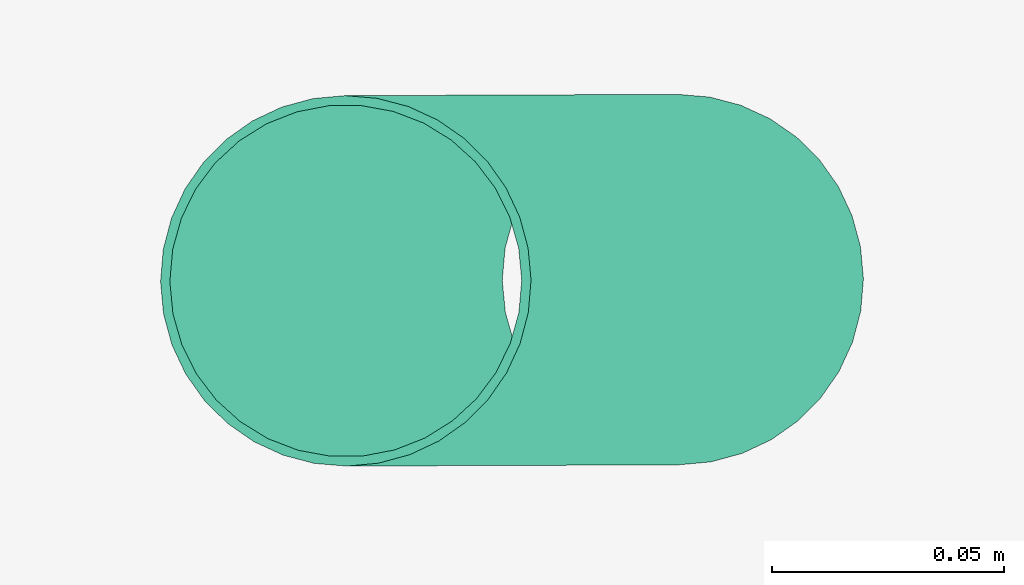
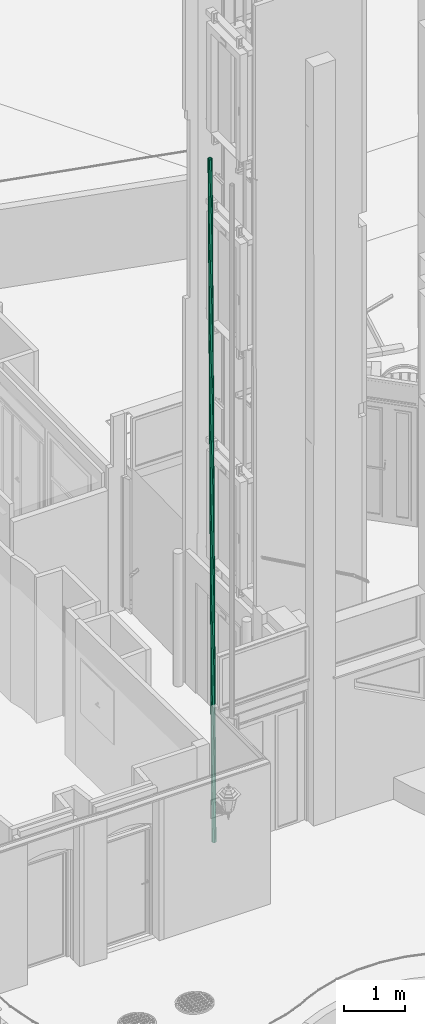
# One storey, part 122 of 133: 1 flow segment.
"""IFC2X3 building model written with IfcOpenShell, lengths in centimetres."""

from ifc_helpers import new_model, entity, si_unit, converted_unit, direction, frame, origin, origin_with_axes, place, context, subcontext, project, spatial, faceted_brep, material, type_object, element, save


model = new_model("IFC2X3")

# Units and contexts
model_context = context("Model", 3, precision=0.0001, world=origin(), true_north=direction((0.225632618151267, 0.974212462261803, 0.0)))
body_context = subcontext(model_context, "Body", "Model", "MODEL_VIEW")
ifc_project = project(units=[si_unit("LENGTHUNIT", "METRE", prefix="CENTI"), si_unit("AREAUNIT", "SQUARE_METRE", prefix="CENTI"), si_unit("VOLUMEUNIT", "CUBIC_METRE", prefix="CENTI"), converted_unit("PLANEANGLEUNIT", "DEGREE", entity("IfcRatioMeasure", 0.0174532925), si_unit("PLANEANGLEUNIT", "RADIAN"), dimensions=[0, 0, 0, 0, 0, 0, 0])], contexts=[model_context])

# Site, building, storey
site_placement = place(None, origin_with_axes())
site = spatial("IfcSite", under=ifc_project, at=site_placement, Name="Default Site", CompositionType="ELEMENT")
building_placement = place(site_placement, origin_with_axes())
building = spatial("IfcBuilding", under=site, at=building_placement, Name="Default Building", CompositionType="ELEMENT")
storey_placement = place(building_placement, frame((0.0, 0.0, -291.400371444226), z_axis=(0.0, 0.0, 1.0), x_axis=(1.0, 0.0, 0.0)))
storey = spatial("IfcBuildingStorey", under=building, at=storey_placement, Name="Rez-de-Jardin", CompositionType="ELEMENT", Elevation=-291.400371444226)

# Flow segment
ifc_material = material(Name="Aluminium mat")
pipe_segment_type = type_object("IfcPipeSegmentType", Name="Default Flow Segment Type", PredefinedType="GUTTER", material=ifc_material)
flow_segment_placement = place(storey_placement, frame((919.412638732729, -854.974369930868, 0.0), z_axis=(-0.005239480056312, -2.03080624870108e-05, 0.999986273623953), x_axis=(0.00387593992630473, -0.999992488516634, -1.46245644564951e-21)))
element("IfcFlowSegment", 1, at=flow_segment_placement, inside=storey, type_object=pipe_segment_type, material=ifc_material, Name="Descente 1533938", context=body_context, shape_type="Brep", body=[
    faceted_brep([(3.66027855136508e-05, -4.0000116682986, 1.15289723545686e-05), (-0.694570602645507, -4.06078192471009, -4.0693937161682e-06), (-0.694548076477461, -4.060780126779, 1370.00004243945), (-3.55029435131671e-05, -4.00001814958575, 1370.00001035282), (-0.694574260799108, -4.06074011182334, -4.06939371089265e-06), (-1.36810340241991, -4.24121170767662, 1.1824748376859e-05), (-1.36808703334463, -4.24120713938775, 1370.00003449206), (-0.694557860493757, -4.06073553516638, 1370.00004243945), (-1.36809614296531, -4.24123880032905, 1.18247483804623e-05), (-1.99998908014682, -4.53589530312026, 5.80571915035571e-06), (-1.99997936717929, -4.53589075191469, 1369.99995694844), (-1.36808628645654, -4.24123418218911, 1370.00003449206), (-2.00000302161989, -4.53586540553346, 5.80571914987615e-06), (-2.57119265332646, -4.93581667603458, 3.31561067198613e-06), (-2.57118942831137, -4.93581390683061, 1369.99995445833), (-1.99999979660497, -4.5358626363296, 1369.99995694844), (-2.57118717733, -4.93582449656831, 3.31561067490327e-06), (-3.06419635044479, -5.42883367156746, 1.17752636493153e-05), (-3.06419772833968, -5.4288349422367, 1369.99996241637), (-2.57118892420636, -4.93582613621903, 1369.99995445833), (-3.06414881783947, -5.4288812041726, 1.17752636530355e-05), (-3.46409245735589, -6.0000599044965, 2.17225931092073e-07), (-3.46405263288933, -6.00000283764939, 1369.99999854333), (-3.06414031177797, -5.42886886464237, 1369.99996241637), (-3.46414306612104, -6.00002446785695, 2.17225926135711e-07), (-3.75881022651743, -6.63194023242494, -2.84199899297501e-06), (-3.75878016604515, -6.63187538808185, 1369.99997164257), (-3.4641129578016, -5.99995952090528, 1369.99999854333), (-3.7588003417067, -6.63194484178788, -2.84199899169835e-06), (-3.93925645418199, -7.30541625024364, -2.79261223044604e-06), (-3.93926186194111, -7.30543646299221, 1369.99997219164), (-3.75878188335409, -6.6318759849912, 1369.99997164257), (-3.9392722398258, -7.30541202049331, -2.79261223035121e-06), (-4.00004416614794, -8.00003834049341, -1.10887095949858e-05), (-4.00003814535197, -7.99996954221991, 1369.99998723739), (-3.93927451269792, -7.30543801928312, 1369.99997219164), (-4.00004375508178, -8.00003837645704, -1.10887095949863e-05), (-3.93928020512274, -8.6945689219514, 3.92799703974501e-06), (-3.93927753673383, -8.69459915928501, 1370.00000275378), (-4.00004936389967, -7.99997400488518, 1369.99998723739), (-3.9392204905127, -8.69456369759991, 3.92799703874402e-06), (-3.75874674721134, -9.3681008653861, 4.31243778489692e-06), (-3.75874446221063, -9.36810933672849, 1370.00000313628), (-3.9392117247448, -8.69459635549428, 1370.00000275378), (-3.75872419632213, -9.36809482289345, 4.31243778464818e-06), (-3.46406509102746, -9.99999333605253, 1.22803553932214e-06), (-3.46404970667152, -10.0000262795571, 1369.99997621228), (-3.75872603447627, -9.36809083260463, 1370.00000313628), (-3.46410166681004, -10.0000103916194, 1.22803553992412e-06), (-3.06419316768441, -10.5711389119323, -1.05740296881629e-05), (-3.06420305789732, -10.5711244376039, 1370.00001209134), (-3.46407989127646, -10.0000411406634, 1369.99997621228), (-3.06414770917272, -10.5711070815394, -1.05740296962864e-05), (-2.5711388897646, -11.0641158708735, -2.07951537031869e-06), (-2.57111211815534, -11.0641423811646, 1370.0000205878), (-3.06416880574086, -10.571085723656, 1370.00001209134), (-2.57119346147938, -11.0641704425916, -2.07951535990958e-06), (-1.99999787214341, -11.4641259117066, -4.8543224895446e-06), (-2.00003182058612, -11.4641018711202, 1370.00001781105), (-2.57116324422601, -11.0641913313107, 1370.0000205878), (-1.99996236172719, -11.4640751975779, -4.85432249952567e-06), (-1.36805217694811, -11.7587397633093, -1.06912990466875e-05), (-1.36809937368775, -11.7587180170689, 1370.00003581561), (-2.0000095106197, -11.464053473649, 1370.00001781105), (-1.36805067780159, -11.7587365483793, -1.06912990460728e-05), (-0.694587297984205, -11.9391905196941, 5.07501938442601e-06), (-0.694556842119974, -11.939198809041, 1370.00002774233), (-1.36810932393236, -11.7587209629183, 1370.00003581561), (-0.694592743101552, -11.9392108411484, 5.07501938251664e-06), (2.41505594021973e-05, -11.9999819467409, -1.02928757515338e-05), (-4.31305650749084e-05, -11.9999762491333, 1369.99996468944), (-0.694565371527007, -11.9392134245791, 1370.00002774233), (2.40346921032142e-05, -11.9999832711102, -1.02928757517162e-05), (0.694631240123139, -11.9392130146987, 5.30549036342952e-06), (0.694567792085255, -11.939218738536, 1370.00002747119), (-4.80818829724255e-05, -11.9999897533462, 1369.99996468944), (0.694634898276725, -11.9392548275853, 5.30549035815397e-06), (1.36807515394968, -11.7588070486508, -1.05905884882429e-05), (1.36809155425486, -11.7588024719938, 1370.00003591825), (0.694586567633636, -11.9392675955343, 1370.00002747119), (1.36806141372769, -11.758755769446, -1.0590588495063e-05), (1.99995435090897, -11.4640992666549, -4.57155922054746e-06), (2.00000103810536, -11.464077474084, 1370.00001759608), (1.36807131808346, -11.7587511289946, 1370.00003591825), (1.99996829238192, -11.4641291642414, -4.57155922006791e-06), (2.57115792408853, -11.0641778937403, -2.08145074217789e-06), (2.57116132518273, -11.0641750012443, 1370.00002058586), (2.00001674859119, -11.4640947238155, 1370.00001759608), (2.57115244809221, -11.0641700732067, -2.08145074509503e-06), (3.06420911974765, -10.5711133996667, -1.05391670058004e-05), (3.06416006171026, -10.5711623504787, 1370.00001212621), (2.57115088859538, -11.0641715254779, 1370.00002058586), (3.06420945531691, -10.571113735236, -1.05391670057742e-05), (3.46412189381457, -9.99997959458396, 1.01693396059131e-06), (3.46411673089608, -9.99998677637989, 1369.99997600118), (3.06417320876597, -10.5711653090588, 1370.00001212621), (3.46410833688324, -9.99997010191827, 1.01693395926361e-06), (3.75877549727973, -9.36805433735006, 4.07615887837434e-06), (3.75876901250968, -9.36806786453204, 1370.00000290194), (3.46410180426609, -9.99998373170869, 1369.99997600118), (3.75876561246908, -9.36804972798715, 4.07615887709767e-06), (3.93922172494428, -8.69457831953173, 4.02677216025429e-06), (3.93921634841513, -8.69459841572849, 1370.00000285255), (3.75876023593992, -9.36806982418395, 1370.00000290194), (3.93923751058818, -8.69458254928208, 4.02677216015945e-06), (4.00000942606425, -7.99995635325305, -1.15186611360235e-05), (4.00000716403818, -7.99998222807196, 1369.99998730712), (3.9392352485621, -8.69460842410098, 1370.00000285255), (4.00000902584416, -7.99995631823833, -1.1518661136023e-05), (3.93924546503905, -7.30542564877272, -2.69383710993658e-06), (3.93923986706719, -7.30536140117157, 1369.99997179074), (4.00001169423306, -7.99998655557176, 1369.99998730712), (3.93918576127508, -7.3054308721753, -2.69383710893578e-06), (3.75871849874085, -6.63191789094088, -3.07634113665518e-06), (3.75872729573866, -6.63195066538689, 1369.99997190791), (3.93917074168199, -7.30537476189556, 1369.99997179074), (3.75878483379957, -6.63190011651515, -3.07634113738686e-06), (3.46410855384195, -5.9999647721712, 6.12434479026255e-09), (3.46412389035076, -5.99999761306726, 1369.9999988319), (3.75880021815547, -6.63193306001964, 1369.99997190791), (3.46406693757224, -5.99998417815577, 6.12434547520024e-09), (3.06418998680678, -5.42890071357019, 1.18101263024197e-05), (3.06413558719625, -5.42882267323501, 1369.99996245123), (3.46408865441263, -6.00001484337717, 1369.9999988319), (3.06420834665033, -5.42888785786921, 1.18101262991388e-05), (2.57115165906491, -4.93583120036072, 3.31367524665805e-06), (2.57117861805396, -4.93585789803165, 1369.99995445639), (3.06413993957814, -5.42881918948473, 1369.99996245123), (2.57115873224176, -4.93582412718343, 3.3136752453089e-06), (2.00002730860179, -4.53591358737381, 6.09041914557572e-06), (1.99994897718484, -4.53585846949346, 1369.99995673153), (2.57118912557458, -4.93584513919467, 1369.99995445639), (2.00002299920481, -4.53591974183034, 6.09041914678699e-06), (1.36811281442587, -4.24125517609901, 1.19273956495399e-05), (1.36802944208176, -4.24121656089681, 1370.00003409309), (1.99993977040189, -4.53588119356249, 1369.99995673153), (1.36811131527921, -4.24125839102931, 1.19273956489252e-05), (0.694558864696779, -4.06078055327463, -3.84085949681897e-06), (0.694589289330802, -4.06078883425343, 1370.00004266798), (1.368029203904, -4.24123651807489, 1370.00003409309), (0.694558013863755, -4.06078372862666, -3.84085949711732e-06), (3.5794593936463e-05, -4.00002090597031, 1.15289723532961e-05), (-3.14973765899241e-05, -4.00001520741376, 1370.00001035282), (0.694585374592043, -4.0607863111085, 1370.00004266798), (2.44047075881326e-05, -4.20000137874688, 1.03371782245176e-05), (0.69824963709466, -4.26470147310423, -8.31194593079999e-06), (0.698277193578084, -4.26470373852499, 1369.9999666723), (-4.26390614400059e-05, -4.19999487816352, 1370.00000916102), (0.698249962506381, -4.2646979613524, -8.31194593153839e-06), (1.37271821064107, -4.45660073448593, -4.0878246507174e-06), (1.37274876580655, -4.4566098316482, 1370.00001857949), (0.698280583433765, -4.26470707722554, 1369.9999666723), (1.3727125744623, -4.45662054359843, -4.08782465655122e-06), (2.0004526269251, -4.76919794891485, -1.14351609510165e-05), (2.00044628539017, -4.76919456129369, 1370.000034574), (1.37274403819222, -4.45663598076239, 1370.00001857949), (2.00045399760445, -4.76919519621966, -1.14351609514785e-05), (2.56004061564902, -5.1917753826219, 9.11239524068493e-06), (2.56007040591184, -5.19179773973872, 1369.99996025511), (2.00043792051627, -4.76918291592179, 1370.000034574), (2.56005775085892, -5.19175269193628, 9.11239523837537e-06), (3.03250868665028, -5.71000668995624, 6.55734124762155e-06), (3.03244342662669, -5.70993503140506, 1370.00000488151), (2.56008339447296, -5.19178074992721, 1369.99996025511), (3.03250556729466, -5.71000953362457, 6.55734124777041e-06), (3.40163587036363, -6.30617543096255, 6.83839607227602e-06), (3.40162898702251, -6.3061642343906, 1369.99998182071), (3.03245604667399, -5.70992947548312, 1370.00000488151), (3.40165385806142, -6.30616429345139, 6.83839607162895e-06), (3.65495930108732, -6.9600210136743, -3.67487108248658e-07), (3.65497216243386, -6.96005416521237, 1369.99997461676), (3.40165414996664, -6.30616499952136, 1369.99998182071), (3.65489684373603, -6.96004520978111, -3.6748710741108e-07), (3.78376179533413, -7.64941180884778, 1.13920557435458e-05), (3.78376451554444, -7.64942632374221, 1369.99996253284), (3.65490282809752, -6.96007718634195, 1369.99997461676), (3.78383301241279, -7.64939849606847, 1.13920557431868e-05), (3.78383301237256, -8.35065004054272, -9.87513164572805e-06), (3.78383301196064, -8.35058282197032, 1370.0000122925), (3.78383301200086, -7.64942664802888, 1369.99996253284), (3.78378532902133, -8.35065004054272, -9.87513164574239e-06), (3.65493171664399, -9.03995602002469, 1.64619358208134e-06), (3.65494478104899, -9.03988660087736, 1369.9999999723), (3.78379841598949, -8.35058050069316, 1370.0000122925), (3.65494156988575, -9.03995786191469, 1.64619358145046e-06), (3.40164077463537, -9.69380258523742, -5.85407233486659e-06), (3.40163445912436, -9.69381867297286, 1369.99999297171), (3.65496742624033, -9.03989090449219, 1369.9999999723), (3.40158917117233, -9.69378259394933, -5.85407233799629e-06), (3.03243058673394, -10.2899941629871, -5.07527868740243e-06), (3.03244134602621, -10.2899767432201, 1369.99996940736), (3.40158346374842, -9.69379176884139, 1369.99999297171), (3.03249226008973, -10.2900323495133, -5.07527868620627e-06), (2.56005509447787, -10.8082712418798, -7.83175258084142e-06), (2.56005252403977, -10.8082741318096, 1370.00001483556), (3.03249411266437, -10.2900303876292, 1369.99996940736), (2.5600326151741, -10.808250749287, -7.83175257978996e-06), (2.0004012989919, -11.2308647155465, -1.08700792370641e-05), (2.00044995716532, -11.2308280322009, 1370.00003513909), (2.56003511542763, -10.8082489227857, 1370.00001483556), (2.00039559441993, -11.2308571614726, -1.08700792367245e-05), (1.37270179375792, -11.5434115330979, 5.61249441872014e-06), (1.3727487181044, -11.5433877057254, 1369.99995625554), (2.00044271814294, -11.2308332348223, 1370.00003513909), (1.37271072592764, -11.5434294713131, 5.61249442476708e-06), (0.69829866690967, -11.7353162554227, 9.42602901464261e-06), (0.69822642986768, -11.735337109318, 1370.00000824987), (1.37275199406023, -11.5434180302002, 1369.99995625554), (0.698286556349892, -11.7352736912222, 9.42602902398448e-06), (3.46294824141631e-05, -11.7999762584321, -9.10108162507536e-06), (-3.76040380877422e-05, -11.799982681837, 1369.99996588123), (0.698214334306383, -11.7352801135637, 1370.00000824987), (3.62327700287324e-05, -11.7999935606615, -9.10108162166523e-06), (-0.698283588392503, -11.7352847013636, 9.54610581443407e-06), (-0.698256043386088, -11.7352869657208, 1370.00000837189), (-3.07995220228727e-05, -11.7999870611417, 1369.99996588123), (-0.698284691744, -11.7352966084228, 9.54610581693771e-06), (-1.37275293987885, -11.5433938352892, 5.32198458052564e-06), (-1.37272228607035, -11.5434029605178, 1369.9999564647), (-0.698254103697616, -11.7353057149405, 1370.00000837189), (-1.37274730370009, -11.5433740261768, 5.32198458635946e-06), (-2.00048730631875, -11.2307966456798, -1.11722097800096e-05), (-2.0004558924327, -11.2308120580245, 1370.00003533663), (-1.37271569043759, -11.5433895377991, 1369.9999564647), (-2.00048872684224, -11.2307994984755, -1.11722097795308e-05), (-2.56001449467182, -10.8082652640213, -7.87629858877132e-06), (-2.56004579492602, -10.8082414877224, 1370.00001478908), (-2.00045917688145, -11.2308216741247, 1370.00003533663), (-2.55999711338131, -10.8082422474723, -7.87629859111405e-06), (-3.03244804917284, -10.2899882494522, -5.32124464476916e-06), (-3.03242246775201, -10.2900162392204, 1369.999969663), (-2.56001512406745, -10.8082224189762, 1370.00001478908), (-3.03244492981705, -10.2899854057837, -5.32124464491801e-06), (-3.40157523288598, -9.69381950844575, -5.6022994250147e-06), (-3.40162475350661, -9.69373945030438, 1369.99999272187), (-3.03242521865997, -10.2900171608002, 1369.999969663), (-3.40159322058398, -9.69383064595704, -5.60229942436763e-06), (-3.65491123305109, -9.0399414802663, 1.60164699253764e-06), (-3.65493048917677, -9.03989172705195, 1369.99999992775), (-3.40162504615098, -9.69374844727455, 1369.99999272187), (-3.65493157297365, -9.03994935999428, 1.6016469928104e-06), (-3.78379323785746, -8.35060034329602, -1.01559590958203e-05), (-3.78378729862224, -8.35063207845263, 1370.00001251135), (-3.65494282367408, -9.03988913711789, 1369.99999992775), (-3.78377237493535, -8.35059644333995, -1.01559590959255e-05), (-3.78377237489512, -7.64934452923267, 1.1109291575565e-05), (-3.78377237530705, -7.64937305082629, 1369.99996225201), (-3.78377237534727, -8.35062459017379, 1370.00001251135), (-3.78382005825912, -7.64934452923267, 1.11092915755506e-05), (-3.65496644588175, -6.9600385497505, -4.12033696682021e-07), (-3.65497064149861, -6.96006146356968, 1369.99997457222), (-3.78382427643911, -7.64936756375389, 1369.99996225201), (-3.65497629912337, -6.96003670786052, -4.12033696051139e-07), (-3.40167550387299, -6.30619198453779, 7.08823222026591e-06), (-3.40168186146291, -6.30620818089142, 1369.99998207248), (-3.65498265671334, -6.96005290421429, 1369.99997457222), (-3.40162390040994, -6.30621197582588, 7.08823222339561e-06), (-3.0324390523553, -5.70995798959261, 6.31137528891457e-06), (-3.0324710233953, -5.71000958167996, 1370.00000513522), (-3.40162966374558, -6.30622124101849, 1369.99998207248), (-3.03243162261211, -5.70996258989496, 6.31137528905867e-06), (-2.56003755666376, -5.19177097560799, 9.06591246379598e-06), (-2.56004031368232, -5.19177407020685, 1369.99996020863), (-3.03247735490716, -5.71001282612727, 1370.00000513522), (-2.56006734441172, -5.19174382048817, 9.06591246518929e-06), (-2.00043608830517, -4.76912989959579, -1.17372914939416e-05), (-2.00043352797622, -4.76912802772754, 1370.00003477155), (-2.56006502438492, -5.19174213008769, 1369.99996020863), (-2.00043032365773, -4.76913753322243, -1.17372914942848e-05), (-1.37273647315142, -4.45658313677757, -4.37833453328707e-06), (-1.37272774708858, -4.45657832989, 1370.00001828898), (-2.00042154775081, -4.76913270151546, 1370.00003477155), (-1.37274545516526, -4.45656509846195, -4.37833453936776e-06), (-0.698245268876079, -4.26465323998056, -8.18993240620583e-06), (-0.698229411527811, -4.26464902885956, 1369.99996679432), (-1.37272953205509, -4.45656086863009, 1370.00001828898), (-0.698225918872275, -4.26472124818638, -8.18993242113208e-06), (2.6007995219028e-05, -4.20001868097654, 1.03371782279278e-05), (-4.62140483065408e-05, -4.200025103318, 1370.00000916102), (-0.698203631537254, -4.26471891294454, 1369.99996679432), (-3.36288634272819e-05, -4.00003957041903, 1370.00001035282), (-0.694549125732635, -4.06076813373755, 1370.00001035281), (-1.36807100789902, -4.24126694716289, 1370.00001035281), (-1.99997788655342, -4.53589392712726, 1370.0000103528), (-2.57116204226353, -4.93585301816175, 1370.00001035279), (-3.06421867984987, -5.42881399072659, 1370.00001035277), (-3.4641175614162, -5.99995737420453, 1370.00001035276), (-3.75877483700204, -6.63187787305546, 1370.00001035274), (-3.9392471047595, -7.30544041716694, 1370.00001035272), (-4.00001825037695, -7.99997128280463, 1370.0000103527), (-3.9391953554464, -8.69459196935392, 1370.00001035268), (-3.75879442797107, -9.36812272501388, 1370.00001035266), (-3.46407653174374, -10.0000387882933, 1370.00001035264), (-3.06421794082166, -10.5711348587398, 1370.00001035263), (-2.57116832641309, -11.0641985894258, 1370.00001035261), (-2.00003259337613, -11.4641029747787, 1370.0000103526), (-1.36812090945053, -11.7587642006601, 1370.0000103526), (-0.694567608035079, -11.9392389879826, 1370.00001035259), (-4.61969568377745e-05, -12.0000112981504, 1370.00001035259), (0.694565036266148, -11.9391872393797, 1370.00001035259), (1.36808654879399, -11.7587837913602, 1370.0000103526), (1.99999379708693, -11.4640619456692, 1370.00001035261), (2.5711775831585, -11.0641982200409, 1370.00001035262), (3.06413922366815, -10.5711415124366, 1370.00001035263), (3.46413347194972, -9.99999849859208, 1370.00001035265), (3.75879074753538, -9.36807799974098, 1370.00001035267), (3.93926264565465, -8.69461082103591, 1370.00001035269), (4.00003416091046, -7.99998458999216, 1370.00001035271), (3.93921126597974, -7.30536390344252, 1370.00001035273), (3.75880996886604, -6.63192851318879, 1370.00001035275), (3.46409207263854, -6.0000124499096, 1370.00001035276), (3.06413848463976, -5.42882064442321, 1370.00001035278), (2.57118386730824, -4.93585264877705, 1370.00001035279), (1.99995313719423, -4.53585252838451, 1370.0000103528), (1.36804145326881, -4.2411908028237, 1370.00001035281), (0.69458314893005, -4.06081175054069, 1370.00001035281), (-4.58269413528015e-05, -4.20002928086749, 1370.00001035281), (0.698275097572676, -4.26472635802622, 1370.00001035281), (1.37273770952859, -4.45664869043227, 1370.0000103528), (2.00047950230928, -4.76912785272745, 1370.0000103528), (2.56008288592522, -5.19178121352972, 1370.00001035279), (3.03243570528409, -5.70994207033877, 1370.00001035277), (3.40158362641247, -6.30619232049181, 1370.00001035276), (3.65492197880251, -6.96007360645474, 1370.00001035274), (3.78376278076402, -7.64942664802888, 1370.00001035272), (3.78381083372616, -8.35058282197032, 1370.0000103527), (3.65496707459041, -9.03989076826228, 1370.00001035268), (3.40161430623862, -9.69381086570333, 1370.00001035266), (3.03242239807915, -10.2899650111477, 1370.00001035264), (2.56005775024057, -10.8082788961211, 1370.00001035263), (2.00042109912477, -11.2307898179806, 1370.00001035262), (1.3727362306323, -11.5433626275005, 1370.00001035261), (0.698216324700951, -11.7353015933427, 1370.0000103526), (-3.39988789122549e-05, -11.800021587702, 1370.0000103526), (-0.698259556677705, -11.7353248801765, 1370.0000103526), (-1.37272216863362, -11.5434025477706, 1370.0000103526), (-2.00046359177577, -11.2308275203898, 1370.00001035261), (-2.56006734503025, -10.8082700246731, 1370.00001035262), (-3.03241979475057, -10.2900138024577, 1370.00001035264), (-3.40166308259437, -9.69376318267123, 1370.00001035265), (-3.65490606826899, -9.03988226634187, 1370.00001035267), (-3.78374723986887, -8.35062459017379, 1370.00001035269), (-3.78379492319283, -7.64937305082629, 1370.00001035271), (-3.65495116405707, -6.96006510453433, 1370.00001035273), (-3.40159876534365, -6.30624037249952, 1370.00001035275), (-3.03250185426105, -5.70999049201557, 1370.00001035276), (-2.56004220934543, -5.19177234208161, 1370.00001035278), (-2.00040518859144, -4.76916555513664, 1370.00001035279), (-1.37272032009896, -4.45659324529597, 1370.0000103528), (-0.69820078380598, -4.26474964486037, 1370.00001035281), (1.36811131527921, -4.24125839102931, -3.8408637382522e-06), (2.00002299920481, -4.53591974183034, -3.84087123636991e-06), (2.57115873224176, -4.93582412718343, -3.84088176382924e-06), (3.06420834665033, -5.42888785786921, -3.84089500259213e-06), (3.46406693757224, -5.99998417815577, -3.84091054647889e-06), (3.75878483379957, -6.63190011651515, -3.840927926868e-06), (3.93918576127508, -7.3054308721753, -3.84094661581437e-06), (4.00000902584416, -7.99995631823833, -3.84096604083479e-06), (3.93923751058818, -8.69458254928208, -3.84098561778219e-06), (3.75876561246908, -9.36804972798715, -3.84100474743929e-06), (3.46410833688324, -9.99997010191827, -3.84102285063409e-06), (3.06420945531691, -10.571113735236, -3.84103937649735e-06), (2.57115244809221, -11.0641700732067, -3.84105382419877e-06), (1.99996829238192, -11.4641291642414, -3.841065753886e-06), (1.36806141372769, -11.758755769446, -3.84107480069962e-06), (0.694634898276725, -11.9392548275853, -3.8410806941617e-06), (2.40346921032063e-05, -11.9999832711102, -3.84108325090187e-06), (-0.694592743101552, -11.9392108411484, -3.84108239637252e-06), (-1.36805067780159, -11.7587365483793, -3.84107815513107e-06), (-1.99996236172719, -11.4640751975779, -3.84107065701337e-06), (-2.57119346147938, -11.0641704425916, -3.8410601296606e-06), (-3.06414770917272, -10.5711070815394, -3.84104689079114e-06), (-3.46410166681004, -10.0000103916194, -3.84103134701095e-06), (-3.75872419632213, -9.36809482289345, -3.84101396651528e-06), (-3.9392204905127, -8.69456369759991, -3.84099527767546e-06), (-4.00004375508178, -8.00003837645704, -3.84097585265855e-06), (-3.9392722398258, -7.30541202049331, -3.84095627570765e-06), (-3.7588003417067, -6.63194484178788, -3.84093714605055e-06), (-3.46414306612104, -6.00002446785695, -3.84091904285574e-06), (-3.06414881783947, -5.4288812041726, -3.84090251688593e-06), (-2.57118717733, -4.93582449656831, -3.84088806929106e-06), (-2.00000302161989, -4.53586540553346, -3.84087613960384e-06), (-1.36809614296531, -4.24123880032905, -3.84086709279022e-06), (-0.694574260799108, -4.06074011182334, -3.84086119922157e-06), (3.66027855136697e-05, -4.0000116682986, -3.8408586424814e-06), (-0.698225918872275, -4.26472124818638, -3.84086693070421e-06), (-1.37274545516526, -4.45656509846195, -3.84087314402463e-06), (-2.00043032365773, -4.76913753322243, -3.84088268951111e-06), (-2.56006734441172, -5.19174382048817, -3.84089524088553e-06), (-3.03243162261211, -5.70996258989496, -3.84091036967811e-06), (-3.40162390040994, -6.30621197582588, -3.84092756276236e-06), (-3.65497629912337, -6.96003670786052, -3.84094623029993e-06), (-3.78382005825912, -7.64934452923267, -3.84096574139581e-06), (-3.78377237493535, -8.35059644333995, -3.84098542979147e-06), (-3.65493157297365, -9.03994935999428, -3.84100462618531e-06), (-3.40159322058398, -9.69383064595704, -3.84102267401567e-06), (-3.03244492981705, -10.2899854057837, -3.84103895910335e-06), (-2.55999711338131, -10.8082422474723, -3.84105293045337e-06), (-2.00048872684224, -11.2307994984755, -3.8410641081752e-06), (-1.37274730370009, -11.5433740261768, -3.84107211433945e-06), (-0.698284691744, -11.7352966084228, -3.84107667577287e-06), (3.62327700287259e-05, -11.7999935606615, -3.84107763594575e-06), (0.698286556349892, -11.7352736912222, -3.84107496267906e-06), (1.37271072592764, -11.5434294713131, -3.84106874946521e-06), (2.00039559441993, -11.2308571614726, -3.84105920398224e-06), (2.5600326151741, -10.808250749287, -3.84104665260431e-06), (3.03249226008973, -10.2900323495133, -3.84103152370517e-06), (3.40158917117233, -9.69378259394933, -3.84101433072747e-06), (3.65494156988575, -9.03995786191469, -3.8409956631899e-06), (3.78378532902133, -8.35065004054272, -3.84097615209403e-06), (3.78383301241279, -7.64939849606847, -3.84095646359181e-06), (3.65489684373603, -6.96004520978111, -3.84093726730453e-06), (3.40165385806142, -6.30616429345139, -3.84091921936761e-06), (3.03250556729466, -5.71000953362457, -3.84090293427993e-06), (2.56005775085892, -5.19175269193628, -3.84088896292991e-06), (2.00045399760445, -4.76919519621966, -3.84087778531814e-06), (1.3727125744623, -4.45662054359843, -3.84086977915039e-06), (0.698249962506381, -4.2646979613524, -3.84086521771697e-06), (2.440470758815e-05, -4.20000137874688, -3.84086425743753e-06)], [[[0, 1, 2, 3]], [[4, 5, 6, 7]], [[8, 9, 10, 11]], [[12, 13, 14, 15]], [[16, 17, 18, 19]], [[20, 21, 22, 23]], [[24, 25, 26, 27]], [[28, 29, 30, 31]], [[32, 33, 34, 35]], [[36, 37, 38, 39]], [[40, 41, 42, 43]], [[44, 45, 46, 47]], [[48, 49, 50, 51]], [[52, 53, 54, 55]], [[56, 57, 58, 59]], [[60, 61, 62, 63]], [[64, 65, 66, 67]], [[68, 69, 70, 71]], [[72, 73, 74, 75]], [[76, 77, 78, 79]], [[80, 81, 82, 83]], [[84, 85, 86, 87]], [[88, 89, 90, 91]], [[92, 93, 94, 95]], [[96, 97, 98, 99]], [[100, 101, 102, 103]], [[104, 105, 106, 107]], [[108, 109, 110, 111]], [[112, 113, 114, 115]], [[116, 117, 118, 119]], [[120, 121, 122, 123]], [[124, 125, 126, 127]], [[128, 129, 130, 131]], [[132, 133, 134, 135]], [[136, 137, 138, 139]], [[140, 141, 142, 143]], [[144, 145, 146, 147]], [[148, 149, 150, 151]], [[152, 153, 154, 155]], [[156, 157, 158, 159]], [[160, 161, 162, 163]], [[164, 165, 166, 167]], [[168, 169, 170, 171]], [[172, 173, 174, 175]], [[176, 177, 178, 179]], [[180, 181, 182, 183]], [[184, 185, 186, 187]], [[188, 189, 190, 191]], [[192, 193, 194, 195]], [[196, 197, 198, 199]], [[200, 201, 202, 203]], [[204, 205, 206, 207]], [[208, 209, 210, 211]], [[212, 213, 214, 215]], [[216, 217, 218, 219]], [[220, 221, 222, 223]], [[224, 225, 226, 227]], [[228, 229, 230, 231]], [[232, 233, 234, 235]], [[236, 237, 238, 239]], [[240, 241, 242, 243]], [[244, 245, 246, 247]], [[248, 249, 250, 251]], [[252, 253, 254, 255]], [[256, 257, 258, 259]], [[260, 261, 262, 263]], [[264, 265, 266, 267]], [[268, 269, 270, 271]], [[272, 273, 274, 275]], [[276, 277, 278, 279]], [[280, 281, 282, 283, 284, 285, 286, 287, 288, 289, 290, 291, 292, 293, 294, 295, 296, 297, 298, 299, 300, 301, 302, 303, 304, 305, 306, 307, 308, 309, 310, 311, 312, 313, 314, 315], [316, 317, 318, 319, 320, 321, 322, 323, 324, 325, 326, 327, 328, 329, 330, 331, 332, 333, 334, 335, 336, 337, 338, 339, 340, 341, 342, 343, 344, 345, 346, 347, 348, 349]], [[140, 350, 351, 352, 353, 354, 355, 356, 357, 358, 359, 360, 361, 362, 363, 364, 365, 366, 367, 368, 369, 370, 371, 372, 373, 374, 375, 376, 377, 378, 379, 380, 381, 382, 383, 384], [385, 386, 387, 388, 389, 390, 391, 392, 393, 394, 395, 396, 397, 398, 399, 400, 401, 402, 403, 404, 405, 406, 407, 408, 409, 410, 411, 412, 413, 414, 415, 416, 417, 418]]]),
])

save(model, "model.ifc")
